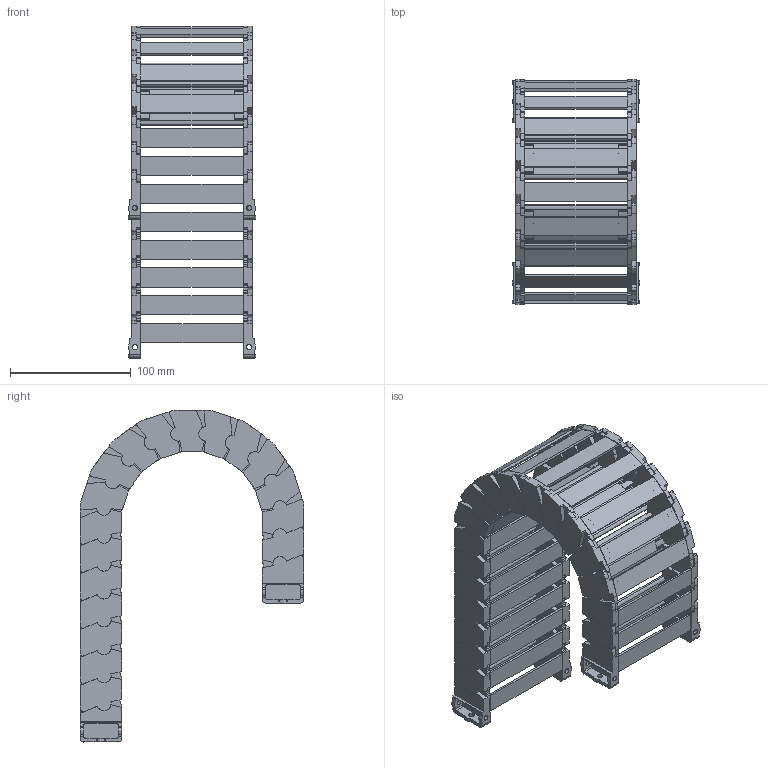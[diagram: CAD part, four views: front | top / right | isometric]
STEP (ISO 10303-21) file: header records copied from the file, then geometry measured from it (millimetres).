
FILE_DESCRIPTION((''),'2;1');
FILE_NAME('JY-25X85-R75_ASM','2025-07-31T15:13:08',('admin'),(''),'CREO PARAMETRIC BY PTC INC, 2021023','CREO PARAMETRIC BY PTC INC, 2021023','');
FILE_SCHEMA(('CONFIG_CONTROL_DESIGN','GEOMETRIC_VALIDATION_PROPERTIES_MIM'));
Length unit declared in the file: millimetre
Products named in the file (13): 25XL-L_1_1; 25-35XL-YP_1_1; 25XL-R_1_1; ASM0001_ASM_1_ASM_1_ASM; 25-LTT-A-L_1_1; 25-LTT-A-R_1_1; 25XL-LTT-A_ASM_1_ASM_1_ASM; 25-LTT-B-L_1_1; 25-LTT-B-R_1_1; 25XL-LTT-B_ASM_1_ASM_1_ASM; JY-25X77-R75_ASM_1_ASM_1_ASM; JY-25X77-R75_ASM_1_ASM; JY-25X85-R75_ASM
Assembly tree (34 placements, depth 5):
  JY-25X85-R75_ASM
    JY-25X77-R75_ASM_1_ASM
      JY-25X77-R75_ASM_1_ASM_1_ASM
        ASM0001_ASM_1_ASM_1_ASM  x18
          25XL-L_1_1
          25-35XL-YP_1_1
          25XL-R_1_1
        25XL-LTT-A_ASM_1_ASM_1_ASM
          25-LTT-A-L_1_1
          25-35XL-YP_1_1  x2
          25-LTT-A-R_1_1
        25XL-LTT-B_ASM_1_ASM_1_ASM
          25-LTT-B-L_1_1
          25-35XL-YP_1_1  x2
          25-LTT-B-R_1_1
Bounding box: 105.58 x 185.54 x 275.02 mm (x, y, z)
Volume: 396231.1 mm3; surface area: 293475.8 mm2
Topology: 80 solids, 80 shells, 3024 faces, 9076 edges, 6254 vertices
Faces by surface type: plane 1926, cylinder 1062, cone 36
Entity records: 15542 total; most frequent: CARTESIAN_POINT 2651, DIRECTION 2625, ORIENTED_EDGE 2466, EDGE_CURVE 1233, AXIS2_PLACEMENT_3D 909, VERTEX_POINT 844, VECTOR 807, LINE 807
